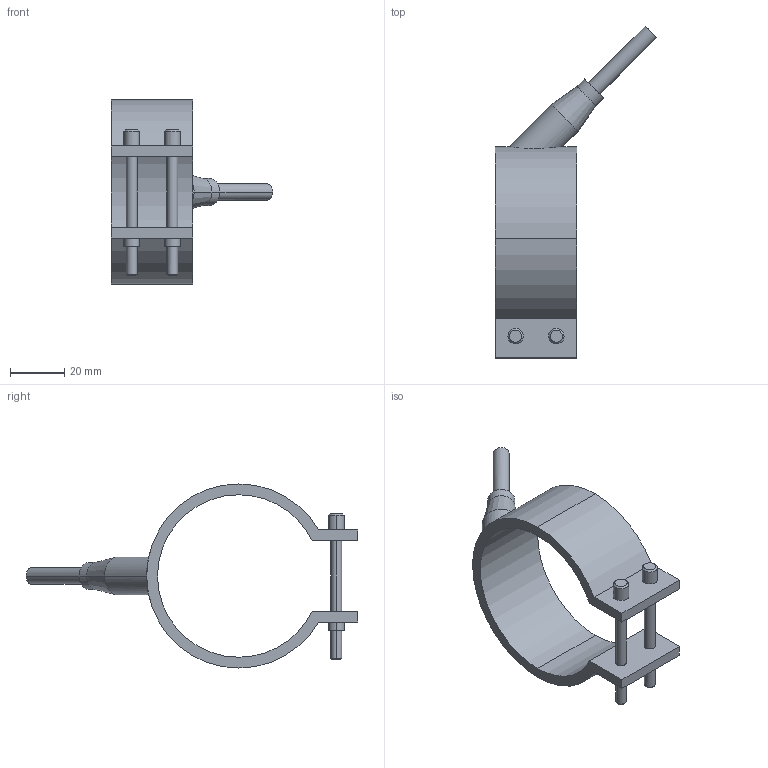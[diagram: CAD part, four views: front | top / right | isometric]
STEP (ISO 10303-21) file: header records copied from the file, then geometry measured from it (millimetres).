
FILE_DESCRIPTION(('CATIA V5 STEP Exchange'),'2;1');
FILE_NAME('C:\Users\Utente\Desktop\IO LAVORO\3D X SITO CF\X SITO\PLASTICA\RF1\29060030.stp','2021-03-27T09:55:07+00:00',('none'),('none'),'CATIA Version 5 Release 20 GA (IN-10)','CATIA V5 STEP AP203','none');
FILE_SCHEMA(('CONFIG_CONTROL_DESIGN'));
Length unit declared in the file: millimetre
Products named in the file (1): 29060030
Bounding box: 59.55 x 122.55 x 68 mm (x, y, z)
Volume: 30335.7 mm3; surface area: 16770.9 mm2
Topology: 1 solids, 1 shells, 54 faces, 126 edges, 82 vertices
Faces by surface type: cylinder 28, plane 16, cone 10
Entity records: 1744 total; most frequent: CARTESIAN_POINT 495, ORIENTED_EDGE 252, DIRECTION 214, EDGE_CURVE 126, AXIS2_PLACEMENT_3D 107, VERTEX_POINT 82, EDGE_LOOP 66, VECTOR 56
